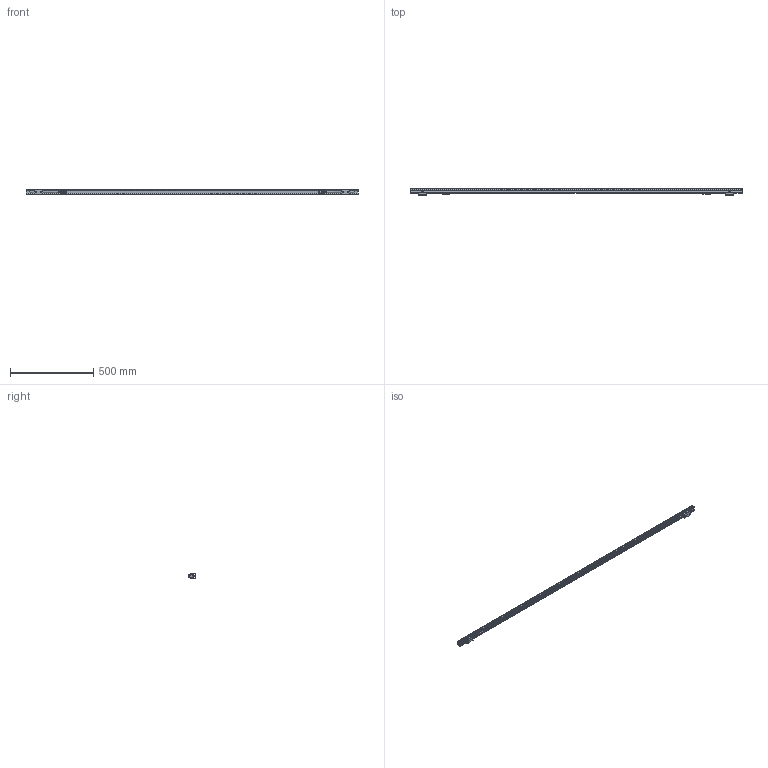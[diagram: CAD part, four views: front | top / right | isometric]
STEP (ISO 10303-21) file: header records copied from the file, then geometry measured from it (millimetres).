
FILE_DESCRIPTION (( 'STEP AP214' ), '1' );
FILE_NAME ('DiGi Linear M-Serie L2000.STEP', '2025-08-11T07:16:42', ( '' ), ( '' ), 'SwSTEP 2.0', 'SolidWorks 2025', '' );
FILE_SCHEMA (( 'AUTOMOTIVE_DESIGN' ));
Length unit declared in the file: millimetre
Products named in the file (7): M12 3p Female; DiGi Linear M-Serie L2000; DiGi Linear M-Series - Bracket; Part1^DiGi Linear M-Serie_L2000; M12 3p Male; DiGi Linear M-Series - Body_L2000; Counter sunk screw torx_M2x6
Assembly tree (14 placements, depth 2):
  DiGi Linear M-Serie L2000
    DiGi Linear M-Series - Body_L2000
    DiGi Linear M-Series - Bracket  x2
    M12 3p Female
    M12 3p Male
    Part1^DiGi Linear M-Serie_L2000
    Counter sunk screw torx_M2x6  x8
Bounding box: 2000 x 39.95 x 31.2 mm (x, y, z)
Volume: 781399 mm3; surface area: 400535.4 mm2
Topology: 15 solids, 159 shells, 8624 faces, 19197 edges, 11502 vertices
Faces by surface type: plane 3605, cylinder 3422, sphere 1160, bspline 188, torus 161, cone 88
Full cylindrical faces by diameter (mm): 2 x12, 3 x8, 4.5 x148, 8 x4, 9.7 x1, 10.8 x1, 12.3 x1, 14.3 x2
Entity records: 246035 total; most frequent: CARTESIAN_POINT 52940, DIRECTION 38776, ORIENTED_EDGE 37052, EDGE_CURVE 18526, AXIS2_PLACEMENT_3D 13984, VERTEX_POINT 11182, LINE 10808, VECTOR 10808
